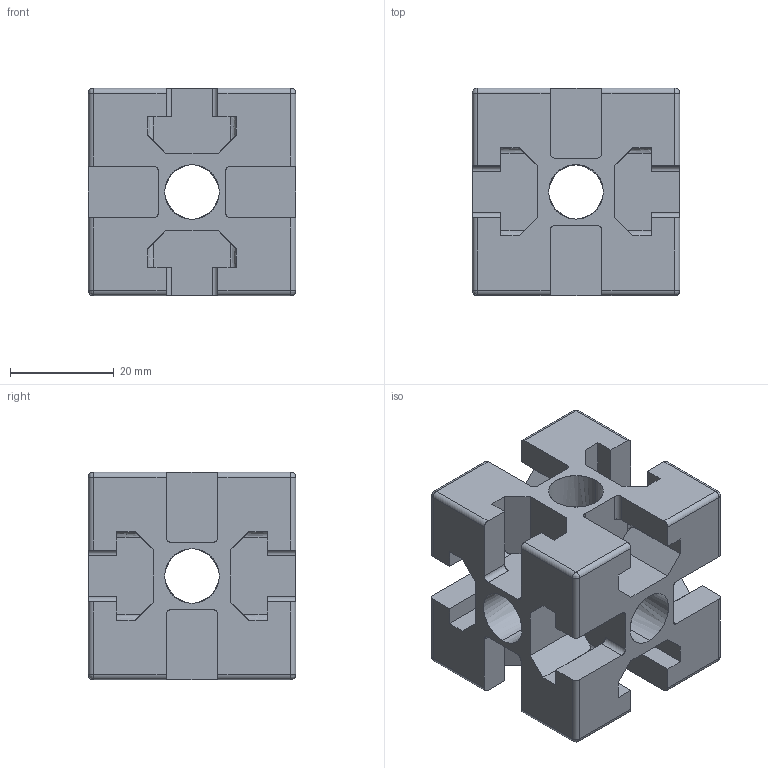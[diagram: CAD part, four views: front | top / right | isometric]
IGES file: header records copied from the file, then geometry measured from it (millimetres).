
Start section: SolidWorks IGES file using analytic representation for surfaces
Global section: file name: C:\Documents and Settings\Administrator\デスクトップ\指定保存後4回目\SolidWorks\SF\SF40・45\Bracket\クロスジョイント40_45_60_80\SFJ-F01.IGS,41HSolidWorks 2006 by; native system: SolidWorks Corporation; preprocessor: SolidWorks 2006 by SolidWorks Corporation; author: Administrator; date: 061215.171600; units: millimetre
Bounding box: 40 x 40 x 40 mm (x, y, z)
Surface area: 17507.7 mm2 (no closed solid volume)
Topology: 0 solids, 0 shells, 218 faces, 2540 edges, 2532 vertices
Faces by surface type: bspline 126, revolution 92
